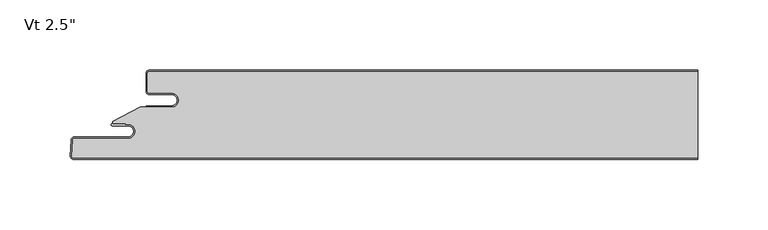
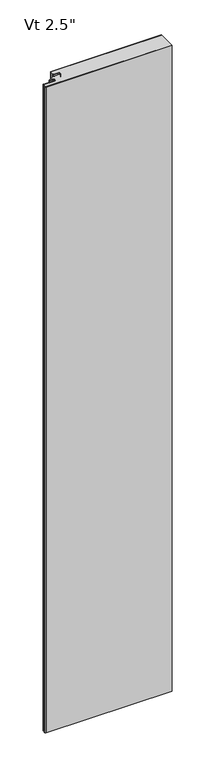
"""IFC4 building model written with IfcOpenShell, lengths in millimetres: plate geometry."""

from ifc_helpers import new_model, si_unit, point, frame_2d, origin, origin_with_axes, place, context, project, spatial, polyline, circle_curve, trimmed, segment, composite_curve, outline, extrude, source, transform, mapped, element, save


def plate_7b0d1b0b(model_context):
    return source(origin(), model_context, "Body", "SweptSolid", [
        extrude(outline(composite_curve([segment(polyline([(-177.5437498, -16.4625), (-193.4187498, -16.4625)]), True, "CONTINUOUS"), segment(trimmed(circle_curve(frame_2d((-193.4187498, -15.08125)), 1.38125), [point((-193.4187498, -16.4625))], [point((-194.7999998, -15.08125))], False, "CARTESIAN"), True, "CONTINUOUS"), segment(polyline([(-194.7999998, -15.08125), (-194.7999998, -2.38125)]), True, "CONTINUOUS"), segment(trimmed(circle_curve(frame_2d((-193.4187498, -2.38125)), 1.38125), [point((-194.7999998, -2.38125))], [point((-193.4187498, -1.0))], False, "CARTESIAN"), True, "CONTINUOUS"), segment(polyline([(-193.4187498, -1.0), (196.6062498, -1.0), (196.6062498, -62.5), (-247.2799534, -62.5)]), True, "CONTINUOUS"), segment(trimmed(circle_curve(frame_2d((-247.2799534, -61.11875)), 1.38125), [point((-247.2799534, -62.5))], [point((-248.6593104, -61.046461))], False, "CARTESIAN"), True, "CONTINUOUS"), segment(polyline([(-248.6593104, -61.046461), (-248.076929, -49.933961)]), True, "CONTINUOUS"), segment(trimmed(circle_curve(frame_2d((-246.6975719, -50.00625)), 1.38125), [point((-248.076929, -49.933961))], [point((-246.6975719, -48.625))], False, "CARTESIAN"), True, "CONTINUOUS"), segment(polyline([(-246.6975719, -48.625), (-208.5142673, -48.625)]), True, "CONTINUOUS"), segment(trimmed(circle_curve(frame_2d((-208.5142673, -43.65625)), 4.96875), [point((-208.5142673, -48.625))], [point((-208.5142673, -38.6875))], True, "CARTESIAN"), True, "CONTINUOUS"), segment(polyline([(-208.5142673, -38.6875), (-210.1017673, -38.89375), (-210.1017673, -38.1), (-219.6124998, -38.1), (-219.6124998, -36.5326309), (-199.7260921, -26.4), (-177.5437498, -26.4)]), True, "CONTINUOUS"), segment(trimmed(circle_curve(frame_2d((-177.5437498, -21.43125)), 4.96875), [point((-177.5437498, -26.4))], [point((-177.5437498, -16.4625))], True, "CARTESIAN"), True, "CONTINUOUS")], self_intersect=False)), origin_with_axes(), (0.0, 0.0, 1.0), 2400.0),
        extrude(outline(composite_curve([segment(polyline([(-195.7999998, -25.4), (-177.5437498, -25.4)]), True, "CONTINUOUS"), segment(trimmed(circle_curve(frame_2d((-177.5437498, -21.43125)), 3.96875), [point((-177.5437498, -25.4))], [point((-177.5437498, -17.4625))], True, "CARTESIAN"), True, "CONTINUOUS"), segment(polyline([(-177.5437498, -17.4625), (-193.4187498, -17.4625)]), True, "CONTINUOUS"), segment(trimmed(circle_curve(frame_2d((-193.4187498, -15.08125)), 2.38125), [point((-193.4187498, -17.4625))], [point((-195.7999998, -15.08125))], False, "CARTESIAN"), True, "CONTINUOUS"), segment(polyline([(-195.7999998, -15.08125), (-195.7999998, -2.38125)]), True, "CONTINUOUS"), segment(trimmed(circle_curve(frame_2d((-193.4187498, -2.38125)), 2.38125), [point((-195.7999998, -2.38125))], [point((-193.4187498, 0.0))], False, "CARTESIAN"), True, "CONTINUOUS"), segment(polyline([(-193.4187498, 0.0), (196.6062498, 0.0), (196.6062498, -1.0), (-193.4187498, -1.0)]), True, "CONTINUOUS"), segment(trimmed(circle_curve(frame_2d((-193.4187498, -2.38125)), 1.38125), [point((-193.4187498, -1.0))], [point((-194.7999998, -2.38125))], True, "CARTESIAN"), True, "CONTINUOUS"), segment(polyline([(-194.7999998, -2.38125), (-194.7999998, -15.08125)]), True, "CONTINUOUS"), segment(trimmed(circle_curve(frame_2d((-193.4187498, -15.08125)), 1.38125), [point((-194.7999998, -15.08125))], [point((-193.4187498, -16.4625))], True, "CARTESIAN"), True, "CONTINUOUS"), segment(polyline([(-193.4187498, -16.4625), (-177.5437498, -16.4625)]), True, "CONTINUOUS"), segment(trimmed(circle_curve(frame_2d((-177.5437498, -21.43125)), 4.96875), [point((-177.5437498, -16.4625))], [point((-177.5437498, -26.4))], False, "CARTESIAN"), True, "CONTINUOUS"), segment(polyline([(-177.5437498, -26.4), (-195.7999998, -26.4), (-195.7999998, -25.4)]), True, "CONTINUOUS")], self_intersect=False)), origin_with_axes(), (0.0, 0.0, 1.0), 2400.0),
        extrude(outline(composite_curve([segment(polyline([(-219.8252048, -38.1), (-210.1017673, -38.1), (-210.1017673, -38.89375), (-208.5142673, -38.6875)]), True, "CONTINUOUS"), segment(trimmed(circle_curve(frame_2d((-208.5142673, -43.65625)), 4.96875), [point((-208.5142673, -38.6875))], [point((-208.5142673, -48.625))], False, "CARTESIAN"), True, "CONTINUOUS"), segment(polyline([(-208.5142673, -48.625), (-246.6975719, -48.625)]), True, "CONTINUOUS"), segment(trimmed(circle_curve(frame_2d((-246.6975719, -50.00625)), 1.38125), [point((-246.6975719, -48.625))], [point((-248.076929, -49.933961))], True, "CARTESIAN"), True, "CONTINUOUS"), segment(polyline([(-248.076929, -49.933961), (-248.6593104, -61.046461)]), True, "CONTINUOUS"), segment(trimmed(circle_curve(frame_2d((-247.2799534, -61.11875)), 1.38125), [point((-248.6593104, -61.046461))], [point((-247.2799534, -62.5))], True, "CARTESIAN"), True, "CONTINUOUS"), segment(polyline([(-247.2799534, -62.5), (196.6062498, -62.5), (196.6062498, -63.5), (-247.2799534, -63.5)]), True, "CONTINUOUS"), segment(trimmed(circle_curve(frame_2d((-247.2799534, -61.11875)), 2.38125), [point((-247.2799534, -63.5))], [point((-249.6579399, -60.994125))], False, "CARTESIAN"), True, "CONTINUOUS"), segment(polyline([(-249.6579399, -60.994125), (-249.0755585, -49.881625)]), True, "CONTINUOUS"), segment(trimmed(circle_curve(frame_2d((-246.6975719, -50.00625)), 2.38125), [point((-249.0755585, -49.881625))], [point((-246.6975719, -47.625))], False, "CARTESIAN"), True, "CONTINUOUS"), segment(polyline([(-246.6975719, -47.625), (-208.5142673, -47.625)]), True, "CONTINUOUS"), segment(trimmed(circle_curve(frame_2d((-208.5142673, -43.65625)), 3.96875), [point((-208.5142673, -47.625))], [point((-208.5142673, -39.6875))], True, "CARTESIAN"), True, "CONTINUOUS"), segment(polyline([(-208.5142673, -39.6875), (-219.8252048, -39.6875)]), True, "CONTINUOUS"), segment(trimmed(circle_curve(frame_2d((-219.8252048, -38.89375)), 0.79375), [point((-219.8252048, -39.6875))], [point((-219.8252048, -38.1))], False, "CARTESIAN"), True, "CONTINUOUS")], self_intersect=False)), origin_with_axes(), (0.0, 0.0, 1.0), 2400.0),
    ])


if __name__ == "__main__":
    model = new_model("IFC4")
    model_context = context("Model", 3, world=origin())
    ifc_project = project(units=[si_unit("LENGTHUNIT", "METRE", prefix="MILLI")], contexts=[model_context])
    site = spatial("IfcSite", under=ifc_project)
    building = spatial("IfcBuilding", under=site)
    placement = place(None, origin())
    plate_shape = plate_7b0d1b0b(model_context)
    element("IfcPlate", 1, ObjectType="KIP-42-DWTR-R19-CP-Vt-F : Vt 2.5\"", at=placement, inside=building, context=model_context, shape_type="MappedRepresentation", body=[
        mapped(plate_shape, transform((0.0, 0.0, 0.0), x_axis=(1.0, 0.0, 0.0), y_axis=(0.0, 1.0, 0.0), z_axis=(0.0, 0.0, 1.0))),
    ])
    save(model, "model.ifc")
